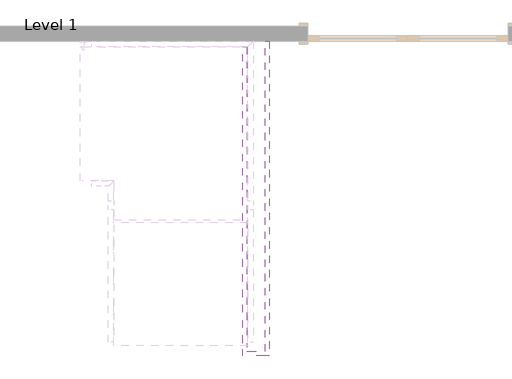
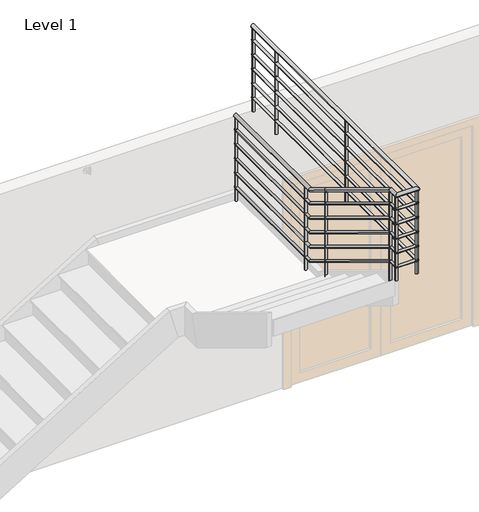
# One storey, part 4 of 5: 1 railing.
"""IFC4 building model written with IfcOpenShell, lengths in millimetres."""

from ifc_helpers import new_model, si_unit, point, frame, frame_2d, origin, place, context, project, spatial, circle_curve, ellipse_curve, trimmed, segment, composite_curve, outline, extrude, element, save
from ifc_brep_helpers import plane_surface, cylinder_surface, advanced_brep

model = new_model("IFC4")

# Units and contexts
model_context = context("Model", 3, world=origin())
ifc_project = project(units=[si_unit("LENGTHUNIT", "METRE", prefix="MILLI")], contexts=[model_context])

# Site, building, storey
site = spatial("IfcSite", under=ifc_project)
building = spatial("IfcBuilding", under=site)
storey = spatial("IfcBuildingStorey", under=building, Name="Level 1", Elevation=0.0)

# Railing
placement = place(None, origin())
element("IfcRailing", 1, ObjectType="Handrail - Pipe", at=placement, inside=storey, context=model_context, shape_type="SolidModel", body=[
    advanced_brep(
    [(-631.467382, 6488.9483604, 3096.6833333), (-593.367382, 6488.9483604, 3096.6833333), (-631.467382, 5188.2262069, 3096.6833333), (-593.367382, 5188.2262069, 3096.6833333), (-593.367382, 4904.2747128, 3268.775148), (-631.467382, 4904.2747128, 3268.775148), (-631.467382, 3791.2262069, 3943.35), (-593.367382, 3791.2262069, 3943.35), (-631.467382, 3675.8983604, 3943.35), (-593.367382, 3713.9983604, 3943.35), (-390.167382, 3675.8983604, 3943.35), (-428.267382, 3713.9983604, 3943.35), (-390.167382, 6539.7483604, 3943.35), (-428.267382, 6539.7483604, 3943.35)],
    [
        (0, 1, circle_curve(frame((-612.417382, 6488.9483604, 3096.6833333), z_axis=(0.0, 1.0, 0.0), x_axis=(1.0, 0.0, 0.0)), 19.05)),
        (1, 0, circle_curve(frame((-612.417382, 6488.9483604, 3096.6833333), z_axis=(0.0, 1.0, 0.0), x_axis=(1.0, 0.0, 0.0)), 19.05)),
        (0, 2),
        (2, 3, ellipse_curve(frame((-612.417382, 5188.2262069, 3096.6833333), z_axis=(0.0, 0.9631193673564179, -0.26907449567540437), x_axis=(0.0, 0.26907449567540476, 0.963119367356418)), 19.7794797, 19.05)),
        (3, 1),
        (3, 2, ellipse_curve(frame((-612.417382, 5188.2262069, 3096.6833333), z_axis=(0.0, 0.9631193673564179, -0.26907449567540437), x_axis=(0.0, 0.26907449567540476, 0.963119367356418)), 19.7794797, 19.05)),
        (4, 5, circle_curve(frame((-612.417382, 4904.2747128, 3268.775148), z_axis=(0.0, -0.8551978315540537, 0.5183017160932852), x_axis=(1.0, 0.0, 0.0)), 19.05)),
        (5, 6),
        (6, 7, ellipse_curve(frame((-612.417382, 3791.2262069, 3943.35), z_axis=(0.0, 0.9631193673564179, -0.26907449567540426), x_axis=(0.0, -0.269074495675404, -0.9631193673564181)), 19.7794797, 19.05)),
        (7, 4),
        (5, 4, circle_curve(frame((-612.417382, 4904.2747128, 3268.775148), z_axis=(0.0, -0.8551978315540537, 0.5183017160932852), x_axis=(1.0, 0.0, 0.0)), 19.05)),
        (7, 6, ellipse_curve(frame((-612.417382, 3791.2262069, 3943.35), z_axis=(0.0, 0.9631193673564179, -0.26907449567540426), x_axis=(0.0, -0.269074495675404, -0.9631193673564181)), 19.7794797, 19.05)),
        (2, 5),
        (4, 3),
        (6, 8),
        (8, 9, ellipse_curve(frame((-612.417382, 3694.9483604, 3943.35), z_axis=(-0.7071067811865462, 0.7071067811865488, 0.0), x_axis=(0.7071067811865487, 0.7071067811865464, 0.0)), 26.9407684, 19.05)),
        (9, 7),
        (9, 8, ellipse_curve(frame((-612.417382, 3694.9483604, 3943.35), z_axis=(-0.7071067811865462, 0.7071067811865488, 0.0), x_axis=(0.7071067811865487, 0.7071067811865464, 0.0)), 26.9407684, 19.05)),
        (8, 10),
        (10, 11, ellipse_curve(frame((-409.217382, 3694.9483604, 3943.35), z_axis=(-0.7071067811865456, -0.7071067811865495, 0.0), x_axis=(-0.7071067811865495, 0.7071067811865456, 0.0)), 26.9407684, 19.05)),
        (11, 9),
        (11, 10, ellipse_curve(frame((-409.217382, 3694.9483604, 3943.35), z_axis=(-0.7071067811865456, -0.7071067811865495, 0.0), x_axis=(-0.7071067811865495, 0.7071067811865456, 0.0)), 26.9407684, 19.05)),
        (12, 13, circle_curve(frame((-409.217382, 6539.7483604, 3943.35), z_axis=(0.0, 1.0, 0.0), x_axis=(-1.0, 0.0, 0.0)), 19.05)),
        (13, 12, circle_curve(frame((-409.217382, 6539.7483604, 3943.35), z_axis=(0.0, 1.0, 0.0), x_axis=(-1.0, 0.0, 0.0)), 19.05)),
        (10, 12),
        (13, 11),
    ],
    [
        plane_surface(frame((-612.417382, 6488.9483604, 3115.7333333), z_axis=(0.0, 1.0, 0.0), x_axis=(0.0, 0.0, -1.0))),
        cylinder_surface(frame((-612.417382, 6488.9483604, 3096.6833333), z_axis=(0.0, 1.0, 0.0), x_axis=(1.0, 0.0, 0.0)), 19.05),
        cylinder_surface(frame((-612.417382, 4904.2747128, 3268.775148), z_axis=(0.0, 0.8551978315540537, -0.5183017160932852), x_axis=(1.0, 0.0, 0.0)), 19.05),
        cylinder_surface(frame((-612.417382, 5183.6747128, 3099.4418146), z_axis=(0.0, 0.8551978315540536, -0.5183017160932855), x_axis=(1.0, 0.0, 0.0)), 19.05),
        cylinder_surface(frame((-612.417382, 3796.5483604, 3943.35), z_axis=(0.0, 1.0, 0.0), x_axis=(1.0, 0.0, 0.0)), 19.05),
        cylinder_surface(frame((-612.417382, 3694.9483604, 3943.35), z_axis=(-1.0, 0.0, 0.0), x_axis=(0.0, 1.0, 0.0)), 19.05),
        plane_surface(frame((-409.217382, 6539.7483604, 3962.4), z_axis=(0.0, 1.0, 0.0), x_axis=(0.0, 0.0, 1.0))),
        cylinder_surface(frame((-409.217382, 3694.9483604, 3943.35), z_axis=(0.0, -1.0, 0.0), x_axis=(-1.0, 0.0, 0.0)), 19.05),
    ],
    [
        (0, [[1, 2]]),
        (1, [[-1, 3, 4, 5]]),
        (1, [[-2, -5, 6, -3]]),
        (2, [[7, 8, 9, 10]]),
        (2, [[11, -10, 12, -8]]),
        (3, [[-4, 13, -7, 14]]),
        (3, [[-6, -14, -11, -13]]),
        (4, [[-9, 15, 16, 17]]),
        (4, [[-12, -17, 18, -15]]),
        (5, [[-16, 19, 20, 21]]),
        (5, [[-18, -21, 22, -19]]),
        (6, [[23, 24]]),
        (7, [[-20, 25, -24, 26]]),
        (7, [[-22, -26, -23, -25]]),
    ],
),
    advanced_brep(
    [(-625.117382, 6488.9483604, 2950.6333333), (-599.717382, 6488.9483604, 2950.6333333), (-625.117382, 5190.0002581, 2950.6333333), (-599.717382, 5190.0002581, 2950.6333333), (-625.117382, 4914.1483604, 3117.8163016), (-599.717382, 4914.1483604, 3117.8163016)],
    [
        (0, 1, circle_curve(frame((-612.417382, 6488.9483604, 2950.6333333), z_axis=(0.0, 1.0, 0.0), x_axis=(1.0, 0.0, 0.0)), 12.7)),
        (1, 0, circle_curve(frame((-612.417382, 6488.9483604, 2950.6333333), z_axis=(0.0, 1.0, 0.0), x_axis=(1.0, 0.0, 0.0)), 12.7)),
        (0, 2),
        (2, 3, ellipse_curve(frame((-612.417382, 5190.0002581, 2950.6333333), z_axis=(0.0, 0.9631193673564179, -0.26907449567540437), x_axis=(0.0, 0.26907449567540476, 0.963119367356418)), 13.1863198, 12.7)),
        (3, 1),
        (3, 2, ellipse_curve(frame((-612.417382, 5190.0002581, 2950.6333333), z_axis=(0.0, 0.9631193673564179, -0.26907449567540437), x_axis=(0.0, 0.26907449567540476, 0.963119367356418)), 13.1863198, 12.7)),
        (4, 5, ellipse_curve(frame((-612.417382, 4914.1483604, 3117.8163016), z_axis=(0.0, -1.0, 0.0), x_axis=(0.0, 0.0, -1.0)), 14.8503651, 12.7)),
        (5, 4, ellipse_curve(frame((-612.417382, 4914.1483604, 3117.8163016), z_axis=(0.0, -1.0, 0.0), x_axis=(0.0, 0.0, -1.0)), 14.8503651, 12.7)),
        (2, 4),
        (5, 3),
    ],
    [
        plane_surface(frame((-612.417382, 6488.9483604, 2963.3333333), z_axis=(0.0, 1.0, 0.0), x_axis=(0.0, 0.0, -1.0))),
        cylinder_surface(frame((-612.417382, 6488.9483604, 2950.6333333), z_axis=(0.0, 1.0, 0.0), x_axis=(1.0, 0.0, 0.0)), 12.7),
        plane_surface(frame((-612.417382, 4914.1483604, 3132.6666667), z_axis=(0.0, -1.0, 0.0), x_axis=(0.0, 0.0, -1.0))),
        cylinder_surface(frame((-612.417382, 5186.9659287, 2952.4723209), z_axis=(0.0, 0.8551978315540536, -0.5183017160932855), x_axis=(1.0, 0.0, 0.0)), 12.7),
    ],
    [
        (0, [[1, 2]]),
        (1, [[-1, 3, 4, 5]]),
        (1, [[-2, -5, 6, -3]]),
        (2, [[7, 8]]),
        (3, [[-4, 9, -8, 10]]),
        (3, [[-6, -10, -7, -9]]),
    ],
),
    advanced_brep(
    [(-625.117382, 4914.1483604, 3117.8163016), (-599.717382, 4914.1483604, 3117.8163016), (-625.117382, 3796.5483604, 3795.1496349), (-599.717382, 3796.5483604, 3795.1496349)],
    [
        (0, 1, ellipse_curve(frame((-612.417382, 4914.1483604, 3117.8163016), z_axis=(0.0, 1.0, 0.0), x_axis=(0.0, 0.0, -1.0)), 14.8503651, 12.7)),
        (1, 0, ellipse_curve(frame((-612.417382, 4914.1483604, 3117.8163016), z_axis=(0.0, 1.0, 0.0), x_axis=(0.0, 0.0, -1.0)), 14.8503651, 12.7)),
        (2, 3, ellipse_curve(frame((-612.417382, 3796.5483604, 3795.1496349), z_axis=(0.0, -1.0, 0.0), x_axis=(0.0, 0.0, -1.0)), 14.8503651, 12.7)),
        (3, 2, ellipse_curve(frame((-612.417382, 3796.5483604, 3795.1496349), z_axis=(0.0, -1.0, 0.0), x_axis=(0.0, 0.0, -1.0)), 14.8503651, 12.7)),
        (0, 2),
        (3, 1),
    ],
    [
        plane_surface(frame((-612.417382, 4914.1483604, 3132.6666667), z_axis=(0.0, 1.0, 0.0), x_axis=(0.0, 0.0, -1.0))),
        plane_surface(frame((-612.417382, 3796.5483604, 3810.0), z_axis=(0.0, -1.0, 0.0), x_axis=(0.0, 0.0, -1.0))),
        cylinder_surface(frame((-612.417382, 4907.5659287, 3121.8056542), z_axis=(0.0, 0.8551978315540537, -0.5183017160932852), x_axis=(1.0, 0.0, 0.0)), 12.7),
    ],
    [
        (0, [[1, 2]]),
        (1, [[3, 4]]),
        (2, [[-1, 5, -4, 6]]),
        (2, [[-2, -6, -3, -5]]),
    ],
),
    advanced_brep(
    [(-625.117382, 6488.9483604, 2798.2333333), (-599.717382, 6488.9483604, 2798.2333333), (-625.117382, 5190.0002581, 2798.2333333), (-599.717382, 5190.0002581, 2798.2333333), (-625.117382, 4914.1483604, 2965.4163016), (-599.717382, 4914.1483604, 2965.4163016)],
    [
        (0, 1, circle_curve(frame((-612.417382, 6488.9483604, 2798.2333333), z_axis=(0.0, 1.0, 0.0), x_axis=(1.0, 0.0, 0.0)), 12.7)),
        (1, 0, circle_curve(frame((-612.417382, 6488.9483604, 2798.2333333), z_axis=(0.0, 1.0, 0.0), x_axis=(1.0, 0.0, 0.0)), 12.7)),
        (0, 2),
        (2, 3, ellipse_curve(frame((-612.417382, 5190.0002581, 2798.2333333), z_axis=(0.0, 0.9631193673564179, -0.26907449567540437), x_axis=(0.0, 0.26907449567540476, 0.963119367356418)), 13.1863198, 12.7)),
        (3, 1),
        (3, 2, ellipse_curve(frame((-612.417382, 5190.0002581, 2798.2333333), z_axis=(0.0, 0.9631193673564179, -0.26907449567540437), x_axis=(0.0, 0.26907449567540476, 0.963119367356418)), 13.1863198, 12.7)),
        (4, 5, ellipse_curve(frame((-612.417382, 4914.1483604, 2965.4163016), z_axis=(0.0, -1.0, 0.0), x_axis=(0.0, 0.0, -1.0)), 14.8503651, 12.7)),
        (5, 4, ellipse_curve(frame((-612.417382, 4914.1483604, 2965.4163016), z_axis=(0.0, -1.0, 0.0), x_axis=(0.0, 0.0, -1.0)), 14.8503651, 12.7)),
        (2, 4),
        (5, 3),
    ],
    [
        plane_surface(frame((-612.417382, 6488.9483604, 2810.9333333), z_axis=(0.0, 1.0, 0.0), x_axis=(0.0, 0.0, -1.0))),
        cylinder_surface(frame((-612.417382, 6488.9483604, 2798.2333333), z_axis=(0.0, 1.0, 0.0), x_axis=(1.0, 0.0, 0.0)), 12.7),
        plane_surface(frame((-612.417382, 4914.1483604, 2980.2666667), z_axis=(0.0, -1.0, 0.0), x_axis=(0.0, 0.0, -1.0))),
        cylinder_surface(frame((-612.417382, 5186.9659287, 2800.0723209), z_axis=(0.0, 0.8551978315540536, -0.5183017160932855), x_axis=(1.0, 0.0, 0.0)), 12.7),
    ],
    [
        (0, [[1, 2]]),
        (1, [[-1, 3, 4, 5]]),
        (1, [[-2, -5, 6, -3]]),
        (2, [[7, 8]]),
        (3, [[-4, 9, -8, 10]]),
        (3, [[-6, -10, -7, -9]]),
    ],
),
    advanced_brep(
    [(-625.117382, 4914.1483604, 2965.4163016), (-599.717382, 4914.1483604, 2965.4163016), (-625.117382, 3796.5483604, 3642.7496349), (-599.717382, 3796.5483604, 3642.7496349)],
    [
        (0, 1, ellipse_curve(frame((-612.417382, 4914.1483604, 2965.4163016), z_axis=(0.0, 1.0, 0.0), x_axis=(0.0, 0.0, -1.0)), 14.8503651, 12.7)),
        (1, 0, ellipse_curve(frame((-612.417382, 4914.1483604, 2965.4163016), z_axis=(0.0, 1.0, 0.0), x_axis=(0.0, 0.0, -1.0)), 14.8503651, 12.7)),
        (2, 3, ellipse_curve(frame((-612.417382, 3796.5483604, 3642.7496349), z_axis=(0.0, -1.0, 0.0), x_axis=(0.0, 0.0, -1.0)), 14.8503651, 12.7)),
        (3, 2, ellipse_curve(frame((-612.417382, 3796.5483604, 3642.7496349), z_axis=(0.0, -1.0, 0.0), x_axis=(0.0, 0.0, -1.0)), 14.8503651, 12.7)),
        (0, 2),
        (3, 1),
    ],
    [
        plane_surface(frame((-612.417382, 4914.1483604, 2980.2666667), z_axis=(0.0, 1.0, 0.0), x_axis=(0.0, 0.0, -1.0))),
        plane_surface(frame((-612.417382, 3796.5483604, 3657.6), z_axis=(0.0, -1.0, 0.0), x_axis=(0.0, 0.0, -1.0))),
        cylinder_surface(frame((-612.417382, 4907.5659287, 2969.4056542), z_axis=(0.0, 0.8551978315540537, -0.5183017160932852), x_axis=(1.0, 0.0, 0.0)), 12.7),
    ],
    [
        (0, [[1, 2]]),
        (1, [[3, 4]]),
        (2, [[-1, 5, -4, 6]]),
        (2, [[-2, -6, -3, -5]]),
    ],
),
    advanced_brep(
    [(-625.117382, 6488.9483604, 2645.8333333), (-599.717382, 6488.9483604, 2645.8333333), (-625.117382, 5190.0002581, 2645.8333333), (-599.717382, 5190.0002581, 2645.8333333), (-625.117382, 4914.1483604, 2813.0163016), (-599.717382, 4914.1483604, 2813.0163016)],
    [
        (0, 1, circle_curve(frame((-612.417382, 6488.9483604, 2645.8333333), z_axis=(0.0, 1.0, 0.0), x_axis=(1.0, 0.0, 0.0)), 12.7)),
        (1, 0, circle_curve(frame((-612.417382, 6488.9483604, 2645.8333333), z_axis=(0.0, 1.0, 0.0), x_axis=(1.0, 0.0, 0.0)), 12.7)),
        (0, 2),
        (2, 3, ellipse_curve(frame((-612.417382, 5190.0002581, 2645.8333333), z_axis=(0.0, 0.9631193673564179, -0.26907449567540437), x_axis=(0.0, 0.26907449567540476, 0.963119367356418)), 13.1863198, 12.7)),
        (3, 1),
        (3, 2, ellipse_curve(frame((-612.417382, 5190.0002581, 2645.8333333), z_axis=(0.0, 0.9631193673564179, -0.26907449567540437), x_axis=(0.0, 0.26907449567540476, 0.963119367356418)), 13.1863198, 12.7)),
        (4, 5, ellipse_curve(frame((-612.417382, 4914.1483604, 2813.0163016), z_axis=(0.0, -1.0, 0.0), x_axis=(0.0, 0.0, -1.0)), 14.8503651, 12.7)),
        (5, 4, ellipse_curve(frame((-612.417382, 4914.1483604, 2813.0163016), z_axis=(0.0, -1.0, 0.0), x_axis=(0.0, 0.0, -1.0)), 14.8503651, 12.7)),
        (2, 4),
        (5, 3),
    ],
    [
        plane_surface(frame((-612.417382, 6488.9483604, 2658.5333333), z_axis=(0.0, 1.0, 0.0), x_axis=(0.0, 0.0, -1.0))),
        cylinder_surface(frame((-612.417382, 6488.9483604, 2645.8333333), z_axis=(0.0, 1.0, 0.0), x_axis=(1.0, 0.0, 0.0)), 12.7),
        plane_surface(frame((-612.417382, 4914.1483604, 2827.8666667), z_axis=(0.0, -1.0, 0.0), x_axis=(0.0, 0.0, -1.0))),
        cylinder_surface(frame((-612.417382, 5186.9659287, 2647.6723209), z_axis=(0.0, 0.8551978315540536, -0.5183017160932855), x_axis=(1.0, 0.0, 0.0)), 12.7),
    ],
    [
        (0, [[1, 2]]),
        (1, [[-1, 3, 4, 5]]),
        (1, [[-2, -5, 6, -3]]),
        (2, [[7, 8]]),
        (3, [[-4, 9, -8, 10]]),
        (3, [[-6, -10, -7, -9]]),
    ],
),
    advanced_brep(
    [(-625.117382, 4914.1483604, 2813.0163016), (-599.717382, 4914.1483604, 2813.0163016), (-625.117382, 3796.5483604, 3490.3496349), (-599.717382, 3796.5483604, 3490.3496349)],
    [
        (0, 1, ellipse_curve(frame((-612.417382, 4914.1483604, 2813.0163016), z_axis=(0.0, 1.0, 0.0), x_axis=(0.0, 0.0, -1.0)), 14.8503651, 12.7)),
        (1, 0, ellipse_curve(frame((-612.417382, 4914.1483604, 2813.0163016), z_axis=(0.0, 1.0, 0.0), x_axis=(0.0, 0.0, -1.0)), 14.8503651, 12.7)),
        (2, 3, ellipse_curve(frame((-612.417382, 3796.5483604, 3490.3496349), z_axis=(0.0, -1.0, 0.0), x_axis=(0.0, 0.0, -1.0)), 14.8503651, 12.7)),
        (3, 2, ellipse_curve(frame((-612.417382, 3796.5483604, 3490.3496349), z_axis=(0.0, -1.0, 0.0), x_axis=(0.0, 0.0, -1.0)), 14.8503651, 12.7)),
        (0, 2),
        (3, 1),
    ],
    [
        plane_surface(frame((-612.417382, 4914.1483604, 2827.8666667), z_axis=(0.0, 1.0, 0.0), x_axis=(0.0, 0.0, -1.0))),
        plane_surface(frame((-612.417382, 3796.5483604, 3505.2), z_axis=(0.0, -1.0, 0.0), x_axis=(0.0, 0.0, -1.0))),
        cylinder_surface(frame((-612.417382, 4907.5659287, 2817.0056542), z_axis=(0.0, 0.8551978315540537, -0.5183017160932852), x_axis=(1.0, 0.0, 0.0)), 12.7),
    ],
    [
        (0, [[1, 2]]),
        (1, [[3, 4]]),
        (2, [[-1, 5, -4, 6]]),
        (2, [[-2, -6, -3, -5]]),
    ],
),
    advanced_brep(
    [(-625.117382, 6488.9483604, 2493.4333333), (-599.717382, 6488.9483604, 2493.4333333), (-625.117382, 5190.0002581, 2493.4333333), (-599.717382, 5190.0002581, 2493.4333333), (-625.117382, 4914.1483604, 2660.6163016), (-599.717382, 4914.1483604, 2660.6163016)],
    [
        (0, 1, circle_curve(frame((-612.417382, 6488.9483604, 2493.4333333), z_axis=(0.0, 1.0, 0.0), x_axis=(1.0, 0.0, 0.0)), 12.7)),
        (1, 0, circle_curve(frame((-612.417382, 6488.9483604, 2493.4333333), z_axis=(0.0, 1.0, 0.0), x_axis=(1.0, 0.0, 0.0)), 12.7)),
        (0, 2),
        (2, 3, ellipse_curve(frame((-612.417382, 5190.0002581, 2493.4333333), z_axis=(0.0, 0.9631193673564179, -0.26907449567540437), x_axis=(0.0, 0.26907449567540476, 0.963119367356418)), 13.1863198, 12.7)),
        (3, 1),
        (3, 2, ellipse_curve(frame((-612.417382, 5190.0002581, 2493.4333333), z_axis=(0.0, 0.9631193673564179, -0.26907449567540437), x_axis=(0.0, 0.26907449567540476, 0.963119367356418)), 13.1863198, 12.7)),
        (4, 5, ellipse_curve(frame((-612.417382, 4914.1483604, 2660.6163016), z_axis=(0.0, -1.0, 0.0), x_axis=(0.0, 0.0, -1.0)), 14.8503651, 12.7)),
        (5, 4, ellipse_curve(frame((-612.417382, 4914.1483604, 2660.6163016), z_axis=(0.0, -1.0, 0.0), x_axis=(0.0, 0.0, -1.0)), 14.8503651, 12.7)),
        (2, 4),
        (5, 3),
    ],
    [
        plane_surface(frame((-612.417382, 6488.9483604, 2506.1333333), z_axis=(0.0, 1.0, 0.0), x_axis=(0.0, 0.0, -1.0))),
        cylinder_surface(frame((-612.417382, 6488.9483604, 2493.4333333), z_axis=(0.0, 1.0, 0.0), x_axis=(1.0, 0.0, 0.0)), 12.7),
        plane_surface(frame((-612.417382, 4914.1483604, 2675.4666667), z_axis=(0.0, -1.0, 0.0), x_axis=(0.0, 0.0, -1.0))),
        cylinder_surface(frame((-612.417382, 5186.9659287, 2495.2723209), z_axis=(0.0, 0.8551978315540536, -0.5183017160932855), x_axis=(1.0, 0.0, 0.0)), 12.7),
    ],
    [
        (0, [[1, 2]]),
        (1, [[-1, 3, 4, 5]]),
        (1, [[-2, -5, 6, -3]]),
        (2, [[7, 8]]),
        (3, [[-4, 9, -8, 10]]),
        (3, [[-6, -10, -7, -9]]),
    ],
),
    advanced_brep(
    [(-625.117382, 4914.1483604, 2660.6163016), (-599.717382, 4914.1483604, 2660.6163016), (-625.117382, 3796.5483604, 3337.9496349), (-599.717382, 3796.5483604, 3337.9496349)],
    [
        (0, 1, ellipse_curve(frame((-612.417382, 4914.1483604, 2660.6163016), z_axis=(0.0, 1.0, 0.0), x_axis=(0.0, 0.0, -1.0)), 14.8503651, 12.7)),
        (1, 0, ellipse_curve(frame((-612.417382, 4914.1483604, 2660.6163016), z_axis=(0.0, 1.0, 0.0), x_axis=(0.0, 0.0, -1.0)), 14.8503651, 12.7)),
        (2, 3, ellipse_curve(frame((-612.417382, 3796.5483604, 3337.9496349), z_axis=(0.0, -1.0, 0.0), x_axis=(0.0, 0.0, -1.0)), 14.8503651, 12.7)),
        (3, 2, ellipse_curve(frame((-612.417382, 3796.5483604, 3337.9496349), z_axis=(0.0, -1.0, 0.0), x_axis=(0.0, 0.0, -1.0)), 14.8503651, 12.7)),
        (0, 2),
        (3, 1),
    ],
    [
        plane_surface(frame((-612.417382, 4914.1483604, 2675.4666667), z_axis=(0.0, 1.0, 0.0), x_axis=(0.0, 0.0, -1.0))),
        plane_surface(frame((-612.417382, 3796.5483604, 3352.8), z_axis=(0.0, -1.0, 0.0), x_axis=(0.0, 0.0, -1.0))),
        cylinder_surface(frame((-612.417382, 4907.5659287, 2664.6056542), z_axis=(0.0, 0.8551978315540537, -0.5183017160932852), x_axis=(1.0, 0.0, 0.0)), 12.7),
    ],
    [
        (0, [[1, 2]]),
        (1, [[3, 4]]),
        (2, [[-1, 5, -4, 6]]),
        (2, [[-2, -6, -3, -5]]),
    ],
),
    advanced_brep(
    [(-625.117382, 6488.9483604, 2341.0333333), (-599.717382, 6488.9483604, 2341.0333333), (-625.117382, 5190.0002581, 2341.0333333), (-599.717382, 5190.0002581, 2341.0333333), (-625.117382, 4914.1483604, 2508.2163016), (-599.717382, 4914.1483604, 2508.2163016)],
    [
        (0, 1, circle_curve(frame((-612.417382, 6488.9483604, 2341.0333333), z_axis=(0.0, 1.0, 0.0), x_axis=(1.0, 0.0, 0.0)), 12.7)),
        (1, 0, circle_curve(frame((-612.417382, 6488.9483604, 2341.0333333), z_axis=(0.0, 1.0, 0.0), x_axis=(1.0, 0.0, 0.0)), 12.7)),
        (0, 2),
        (2, 3, ellipse_curve(frame((-612.417382, 5190.0002581, 2341.0333333), z_axis=(0.0, 0.9631193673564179, -0.26907449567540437), x_axis=(0.0, 0.26907449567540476, 0.963119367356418)), 13.1863198, 12.7)),
        (3, 1),
        (3, 2, ellipse_curve(frame((-612.417382, 5190.0002581, 2341.0333333), z_axis=(0.0, 0.9631193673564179, -0.26907449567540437), x_axis=(0.0, 0.26907449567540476, 0.963119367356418)), 13.1863198, 12.7)),
        (4, 5, ellipse_curve(frame((-612.417382, 4914.1483604, 2508.2163016), z_axis=(0.0, -1.0, 0.0), x_axis=(0.0, 0.0, -1.0)), 14.8503651, 12.7)),
        (5, 4, ellipse_curve(frame((-612.417382, 4914.1483604, 2508.2163016), z_axis=(0.0, -1.0, 0.0), x_axis=(0.0, 0.0, -1.0)), 14.8503651, 12.7)),
        (2, 4),
        (5, 3),
    ],
    [
        plane_surface(frame((-612.417382, 6488.9483604, 2353.7333333), z_axis=(0.0, 1.0, 0.0), x_axis=(0.0, 0.0, -1.0))),
        cylinder_surface(frame((-612.417382, 6488.9483604, 2341.0333333), z_axis=(0.0, 1.0, 0.0), x_axis=(1.0, 0.0, 0.0)), 12.7),
        plane_surface(frame((-612.417382, 4914.1483604, 2523.0666667), z_axis=(0.0, -1.0, 0.0), x_axis=(0.0, 0.0, -1.0))),
        cylinder_surface(frame((-612.417382, 5186.9659287, 2342.8723209), z_axis=(0.0, 0.8551978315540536, -0.5183017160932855), x_axis=(1.0, 0.0, 0.0)), 12.7),
    ],
    [
        (0, [[1, 2]]),
        (1, [[-1, 3, 4, 5]]),
        (1, [[-2, -5, 6, -3]]),
        (2, [[7, 8]]),
        (3, [[-4, 9, -8, 10]]),
        (3, [[-6, -10, -7, -9]]),
    ],
),
    advanced_brep(
    [(-625.117382, 4914.1483604, 2508.2163016), (-599.717382, 4914.1483604, 2508.2163016), (-625.117382, 3796.5483604, 3185.5496349), (-599.717382, 3796.5483604, 3185.5496349)],
    [
        (0, 1, ellipse_curve(frame((-612.417382, 4914.1483604, 2508.2163016), z_axis=(0.0, 1.0, 0.0), x_axis=(0.0, 0.0, -1.0)), 14.8503651, 12.7)),
        (1, 0, ellipse_curve(frame((-612.417382, 4914.1483604, 2508.2163016), z_axis=(0.0, 1.0, 0.0), x_axis=(0.0, 0.0, -1.0)), 14.8503651, 12.7)),
        (2, 3, ellipse_curve(frame((-612.417382, 3796.5483604, 3185.5496349), z_axis=(0.0, -1.0, 0.0), x_axis=(0.0, 0.0, -1.0)), 14.8503651, 12.7)),
        (3, 2, ellipse_curve(frame((-612.417382, 3796.5483604, 3185.5496349), z_axis=(0.0, -1.0, 0.0), x_axis=(0.0, 0.0, -1.0)), 14.8503651, 12.7)),
        (0, 2),
        (3, 1),
    ],
    [
        plane_surface(frame((-612.417382, 4914.1483604, 2523.0666667), z_axis=(0.0, 1.0, 0.0), x_axis=(0.0, 0.0, -1.0))),
        plane_surface(frame((-612.417382, 3796.5483604, 3200.4), z_axis=(0.0, -1.0, 0.0), x_axis=(0.0, 0.0, -1.0))),
        cylinder_surface(frame((-612.417382, 4907.5659287, 2512.2056542), z_axis=(0.0, 0.8551978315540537, -0.5183017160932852), x_axis=(1.0, 0.0, 0.0)), 12.7),
    ],
    [
        (0, [[1, 2]]),
        (1, [[3, 4]]),
        (2, [[-1, 5, -4, 6]]),
        (2, [[-2, -6, -3, -5]]),
    ],
),
    advanced_brep(
    [(-625.117382, 3796.5483604, 3797.3), (-599.717382, 3796.5483604, 3797.3), (-625.117382, 3707.6483604, 3797.3), (-599.717382, 3707.6483604, 3797.3)],
    [
        (0, 1, circle_curve(frame((-612.417382, 3796.5483604, 3797.3), z_axis=(0.0, 1.0, 0.0), x_axis=(1.0, 0.0, 0.0)), 12.7)),
        (1, 0, circle_curve(frame((-612.417382, 3796.5483604, 3797.3), z_axis=(0.0, 1.0, 0.0), x_axis=(1.0, 0.0, 0.0)), 12.7)),
        (2, 3, circle_curve(frame((-612.417382, 3707.6483604, 3797.3), z_axis=(0.0, -1.0, 0.0), x_axis=(1.0, 0.0, 0.0)), 12.7)),
        (3, 2, circle_curve(frame((-612.417382, 3707.6483604, 3797.3), z_axis=(0.0, -1.0, 0.0), x_axis=(1.0, 0.0, 0.0)), 12.7)),
        (0, 2),
        (3, 1),
    ],
    [
        plane_surface(frame((-612.417382, 3796.5483604, 3810.0), z_axis=(0.0, 1.0, 0.0), x_axis=(0.0, 0.0, -1.0))),
        plane_surface(frame((-612.417382, 3707.6483604, 3810.0), z_axis=(0.0, -1.0, 0.0), x_axis=(0.0, 0.0, -1.0))),
        cylinder_surface(frame((-612.417382, 3796.5483604, 3797.3), z_axis=(0.0, 1.0, 0.0), x_axis=(1.0, 0.0, 0.0)), 12.7),
    ],
    [
        (0, [[1, 2]]),
        (1, [[3, 4]]),
        (2, [[-1, 5, -4, 6]]),
        (2, [[-2, -6, -3, -5]]),
    ],
),
    advanced_brep(
    [(-625.117382, 3682.2483604, 3797.3), (-625.117382, 3707.6483604, 3797.3), (-421.917382, 3682.2483604, 3797.3), (-421.917382, 3707.6483604, 3797.3)],
    [
        (0, 1, circle_curve(frame((-625.117382, 3694.9483604, 3797.3), z_axis=(-1.0, 0.0, 0.0), x_axis=(0.0, 1.0, 0.0)), 12.7)),
        (1, 0, circle_curve(frame((-625.117382, 3694.9483604, 3797.3), z_axis=(-1.0, 0.0, 0.0), x_axis=(0.0, 1.0, 0.0)), 12.7)),
        (2, 3, circle_curve(frame((-421.917382, 3694.9483604, 3797.3), z_axis=(1.0, 0.0, 0.0), x_axis=(0.0, 1.0, 0.0)), 12.7)),
        (3, 2, circle_curve(frame((-421.917382, 3694.9483604, 3797.3), z_axis=(1.0, 0.0, 0.0), x_axis=(0.0, 1.0, 0.0)), 12.7)),
        (0, 2),
        (3, 1),
    ],
    [
        plane_surface(frame((-625.117382, 3694.9483604, 3810.0), z_axis=(-1.0, 0.0, 0.0), x_axis=(0.0, 1.0, 0.0))),
        plane_surface(frame((-421.917382, 3694.9483604, 3810.0), z_axis=(1.0, 0.0, 0.0), x_axis=(0.0, 1.0, 0.0))),
        cylinder_surface(frame((-625.117382, 3694.9483604, 3797.3), z_axis=(-1.0, 0.0, 0.0), x_axis=(0.0, 1.0, 0.0)), 12.7),
    ],
    [
        (0, [[1, 2]]),
        (1, [[3, 4]]),
        (2, [[-1, 5, -4, 6]]),
        (2, [[-2, -6, -3, -5]]),
    ],
),
    advanced_brep(
    [(-396.517382, 3682.2483604, 3797.3), (-421.917382, 3682.2483604, 3797.3), (-396.517382, 6539.7483604, 3797.3), (-421.917382, 6539.7483604, 3797.3)],
    [
        (0, 1, circle_curve(frame((-409.217382, 3682.2483604, 3797.3), z_axis=(0.0, -1.0, 0.0), x_axis=(-1.0, 0.0, 0.0)), 12.7)),
        (1, 0, circle_curve(frame((-409.217382, 3682.2483604, 3797.3), z_axis=(0.0, -1.0, 0.0), x_axis=(-1.0, 0.0, 0.0)), 12.7)),
        (2, 3, circle_curve(frame((-409.217382, 6539.7483604, 3797.3), z_axis=(0.0, 1.0, 0.0), x_axis=(-1.0, 0.0, 0.0)), 12.7)),
        (3, 2, circle_curve(frame((-409.217382, 6539.7483604, 3797.3), z_axis=(0.0, 1.0, 0.0), x_axis=(-1.0, 0.0, 0.0)), 12.7)),
        (0, 2),
        (3, 1),
    ],
    [
        plane_surface(frame((-409.217382, 3682.2483604, 3810.0), z_axis=(0.0, -1.0, 0.0), x_axis=(0.0, 0.0, 1.0))),
        plane_surface(frame((-409.217382, 6539.7483604, 3810.0), z_axis=(0.0, 1.0, 0.0), x_axis=(0.0, 0.0, 1.0))),
        cylinder_surface(frame((-409.217382, 3682.2483604, 3797.3), z_axis=(0.0, -1.0, 0.0), x_axis=(-1.0, 0.0, 0.0)), 12.7),
    ],
    [
        (0, [[1, 2]]),
        (1, [[3, 4]]),
        (2, [[-1, 5, -4, 6]]),
        (2, [[-2, -6, -3, -5]]),
    ],
),
    advanced_brep(
    [(-625.117382, 3796.5483604, 3644.9), (-599.717382, 3796.5483604, 3644.9), (-625.117382, 3707.6483604, 3644.9), (-599.717382, 3707.6483604, 3644.9)],
    [
        (0, 1, circle_curve(frame((-612.417382, 3796.5483604, 3644.9), z_axis=(0.0, 1.0, 0.0), x_axis=(1.0, 0.0, 0.0)), 12.7)),
        (1, 0, circle_curve(frame((-612.417382, 3796.5483604, 3644.9), z_axis=(0.0, 1.0, 0.0), x_axis=(1.0, 0.0, 0.0)), 12.7)),
        (2, 3, circle_curve(frame((-612.417382, 3707.6483604, 3644.9), z_axis=(0.0, -1.0, 0.0), x_axis=(1.0, 0.0, 0.0)), 12.7)),
        (3, 2, circle_curve(frame((-612.417382, 3707.6483604, 3644.9), z_axis=(0.0, -1.0, 0.0), x_axis=(1.0, 0.0, 0.0)), 12.7)),
        (0, 2),
        (3, 1),
    ],
    [
        plane_surface(frame((-612.417382, 3796.5483604, 3657.6), z_axis=(0.0, 1.0, 0.0), x_axis=(0.0, 0.0, -1.0))),
        plane_surface(frame((-612.417382, 3707.6483604, 3657.6), z_axis=(0.0, -1.0, 0.0), x_axis=(0.0, 0.0, -1.0))),
        cylinder_surface(frame((-612.417382, 3796.5483604, 3644.9), z_axis=(0.0, 1.0, 0.0), x_axis=(1.0, 0.0, 0.0)), 12.7),
    ],
    [
        (0, [[1, 2]]),
        (1, [[3, 4]]),
        (2, [[-1, 5, -4, 6]]),
        (2, [[-2, -6, -3, -5]]),
    ],
),
    advanced_brep(
    [(-625.117382, 3682.2483604, 3644.9), (-625.117382, 3707.6483604, 3644.9), (-421.917382, 3682.2483604, 3644.9), (-421.917382, 3707.6483604, 3644.9)],
    [
        (0, 1, circle_curve(frame((-625.117382, 3694.9483604, 3644.9), z_axis=(-1.0, 0.0, 0.0), x_axis=(0.0, 1.0, 0.0)), 12.7)),
        (1, 0, circle_curve(frame((-625.117382, 3694.9483604, 3644.9), z_axis=(-1.0, 0.0, 0.0), x_axis=(0.0, 1.0, 0.0)), 12.7)),
        (2, 3, circle_curve(frame((-421.917382, 3694.9483604, 3644.9), z_axis=(1.0, 0.0, 0.0), x_axis=(0.0, 1.0, 0.0)), 12.7)),
        (3, 2, circle_curve(frame((-421.917382, 3694.9483604, 3644.9), z_axis=(1.0, 0.0, 0.0), x_axis=(0.0, 1.0, 0.0)), 12.7)),
        (0, 2),
        (3, 1),
    ],
    [
        plane_surface(frame((-625.117382, 3694.9483604, 3657.6), z_axis=(-1.0, 0.0, 0.0), x_axis=(0.0, 1.0, 0.0))),
        plane_surface(frame((-421.917382, 3694.9483604, 3657.6), z_axis=(1.0, 0.0, 0.0), x_axis=(0.0, 1.0, 0.0))),
        cylinder_surface(frame((-625.117382, 3694.9483604, 3644.9), z_axis=(-1.0, 0.0, 0.0), x_axis=(0.0, 1.0, 0.0)), 12.7),
    ],
    [
        (0, [[1, 2]]),
        (1, [[3, 4]]),
        (2, [[-1, 5, -4, 6]]),
        (2, [[-2, -6, -3, -5]]),
    ],
),
    advanced_brep(
    [(-396.517382, 3682.2483604, 3644.9), (-421.917382, 3682.2483604, 3644.9), (-396.517382, 6539.7483604, 3644.9), (-421.917382, 6539.7483604, 3644.9)],
    [
        (0, 1, circle_curve(frame((-409.217382, 3682.2483604, 3644.9), z_axis=(0.0, -1.0, 0.0), x_axis=(-1.0, 0.0, 0.0)), 12.7)),
        (1, 0, circle_curve(frame((-409.217382, 3682.2483604, 3644.9), z_axis=(0.0, -1.0, 0.0), x_axis=(-1.0, 0.0, 0.0)), 12.7)),
        (2, 3, circle_curve(frame((-409.217382, 6539.7483604, 3644.9), z_axis=(0.0, 1.0, 0.0), x_axis=(-1.0, 0.0, 0.0)), 12.7)),
        (3, 2, circle_curve(frame((-409.217382, 6539.7483604, 3644.9), z_axis=(0.0, 1.0, 0.0), x_axis=(-1.0, 0.0, 0.0)), 12.7)),
        (0, 2),
        (3, 1),
    ],
    [
        plane_surface(frame((-409.217382, 3682.2483604, 3657.6), z_axis=(0.0, -1.0, 0.0), x_axis=(0.0, 0.0, 1.0))),
        plane_surface(frame((-409.217382, 6539.7483604, 3657.6), z_axis=(0.0, 1.0, 0.0), x_axis=(0.0, 0.0, 1.0))),
        cylinder_surface(frame((-409.217382, 3682.2483604, 3644.9), z_axis=(0.0, -1.0, 0.0), x_axis=(-1.0, 0.0, 0.0)), 12.7),
    ],
    [
        (0, [[1, 2]]),
        (1, [[3, 4]]),
        (2, [[-1, 5, -4, 6]]),
        (2, [[-2, -6, -3, -5]]),
    ],
),
    advanced_brep(
    [(-625.117382, 3796.5483604, 3492.5), (-599.717382, 3796.5483604, 3492.5), (-625.117382, 3707.6483604, 3492.5), (-599.717382, 3707.6483604, 3492.5)],
    [
        (0, 1, circle_curve(frame((-612.417382, 3796.5483604, 3492.5), z_axis=(0.0, 1.0, 0.0), x_axis=(1.0, 0.0, 0.0)), 12.7)),
        (1, 0, circle_curve(frame((-612.417382, 3796.5483604, 3492.5), z_axis=(0.0, 1.0, 0.0), x_axis=(1.0, 0.0, 0.0)), 12.7)),
        (2, 3, circle_curve(frame((-612.417382, 3707.6483604, 3492.5), z_axis=(0.0, -1.0, 0.0), x_axis=(1.0, 0.0, 0.0)), 12.7)),
        (3, 2, circle_curve(frame((-612.417382, 3707.6483604, 3492.5), z_axis=(0.0, -1.0, 0.0), x_axis=(1.0, 0.0, 0.0)), 12.7)),
        (0, 2),
        (3, 1),
    ],
    [
        plane_surface(frame((-612.417382, 3796.5483604, 3505.2), z_axis=(0.0, 1.0, 0.0), x_axis=(0.0, 0.0, -1.0))),
        plane_surface(frame((-612.417382, 3707.6483604, 3505.2), z_axis=(0.0, -1.0, 0.0), x_axis=(0.0, 0.0, -1.0))),
        cylinder_surface(frame((-612.417382, 3796.5483604, 3492.5), z_axis=(0.0, 1.0, 0.0), x_axis=(1.0, 0.0, 0.0)), 12.7),
    ],
    [
        (0, [[1, 2]]),
        (1, [[3, 4]]),
        (2, [[-1, 5, -4, 6]]),
        (2, [[-2, -6, -3, -5]]),
    ],
),
    advanced_brep(
    [(-625.117382, 3682.2483604, 3492.5), (-625.117382, 3707.6483604, 3492.5), (-421.917382, 3682.2483604, 3492.5), (-421.917382, 3707.6483604, 3492.5)],
    [
        (0, 1, circle_curve(frame((-625.117382, 3694.9483604, 3492.5), z_axis=(-1.0, 0.0, 0.0), x_axis=(0.0, 1.0, 0.0)), 12.7)),
        (1, 0, circle_curve(frame((-625.117382, 3694.9483604, 3492.5), z_axis=(-1.0, 0.0, 0.0), x_axis=(0.0, 1.0, 0.0)), 12.7)),
        (2, 3, circle_curve(frame((-421.917382, 3694.9483604, 3492.5), z_axis=(1.0, 0.0, 0.0), x_axis=(0.0, 1.0, 0.0)), 12.7)),
        (3, 2, circle_curve(frame((-421.917382, 3694.9483604, 3492.5), z_axis=(1.0, 0.0, 0.0), x_axis=(0.0, 1.0, 0.0)), 12.7)),
        (0, 2),
        (3, 1),
    ],
    [
        plane_surface(frame((-625.117382, 3694.9483604, 3505.2), z_axis=(-1.0, 0.0, 0.0), x_axis=(0.0, 1.0, 0.0))),
        plane_surface(frame((-421.917382, 3694.9483604, 3505.2), z_axis=(1.0, 0.0, 0.0), x_axis=(0.0, 1.0, 0.0))),
        cylinder_surface(frame((-625.117382, 3694.9483604, 3492.5), z_axis=(-1.0, 0.0, 0.0), x_axis=(0.0, 1.0, 0.0)), 12.7),
    ],
    [
        (0, [[1, 2]]),
        (1, [[3, 4]]),
        (2, [[-1, 5, -4, 6]]),
        (2, [[-2, -6, -3, -5]]),
    ],
),
    advanced_brep(
    [(-396.517382, 3682.2483604, 3492.5), (-421.917382, 3682.2483604, 3492.5), (-396.517382, 6539.7483604, 3492.5), (-421.917382, 6539.7483604, 3492.5)],
    [
        (0, 1, circle_curve(frame((-409.217382, 3682.2483604, 3492.5), z_axis=(0.0, -1.0, 0.0), x_axis=(-1.0, 0.0, 0.0)), 12.7)),
        (1, 0, circle_curve(frame((-409.217382, 3682.2483604, 3492.5), z_axis=(0.0, -1.0, 0.0), x_axis=(-1.0, 0.0, 0.0)), 12.7)),
        (2, 3, circle_curve(frame((-409.217382, 6539.7483604, 3492.5), z_axis=(0.0, 1.0, 0.0), x_axis=(-1.0, 0.0, 0.0)), 12.7)),
        (3, 2, circle_curve(frame((-409.217382, 6539.7483604, 3492.5), z_axis=(0.0, 1.0, 0.0), x_axis=(-1.0, 0.0, 0.0)), 12.7)),
        (0, 2),
        (3, 1),
    ],
    [
        plane_surface(frame((-409.217382, 3682.2483604, 3505.2), z_axis=(0.0, -1.0, 0.0), x_axis=(0.0, 0.0, 1.0))),
        plane_surface(frame((-409.217382, 6539.7483604, 3505.2), z_axis=(0.0, 1.0, 0.0), x_axis=(0.0, 0.0, 1.0))),
        cylinder_surface(frame((-409.217382, 3682.2483604, 3492.5), z_axis=(0.0, -1.0, 0.0), x_axis=(-1.0, 0.0, 0.0)), 12.7),
    ],
    [
        (0, [[1, 2]]),
        (1, [[3, 4]]),
        (2, [[-1, 5, -4, 6]]),
        (2, [[-2, -6, -3, -5]]),
    ],
),
    advanced_brep(
    [(-625.117382, 3796.5483604, 3340.1), (-599.717382, 3796.5483604, 3340.1), (-625.117382, 3707.6483604, 3340.1), (-599.717382, 3707.6483604, 3340.1)],
    [
        (0, 1, circle_curve(frame((-612.417382, 3796.5483604, 3340.1), z_axis=(0.0, 1.0, 0.0), x_axis=(1.0, 0.0, 0.0)), 12.7)),
        (1, 0, circle_curve(frame((-612.417382, 3796.5483604, 3340.1), z_axis=(0.0, 1.0, 0.0), x_axis=(1.0, 0.0, 0.0)), 12.7)),
        (2, 3, circle_curve(frame((-612.417382, 3707.6483604, 3340.1), z_axis=(0.0, -1.0, 0.0), x_axis=(1.0, 0.0, 0.0)), 12.7)),
        (3, 2, circle_curve(frame((-612.417382, 3707.6483604, 3340.1), z_axis=(0.0, -1.0, 0.0), x_axis=(1.0, 0.0, 0.0)), 12.7)),
        (0, 2),
        (3, 1),
    ],
    [
        plane_surface(frame((-612.417382, 3796.5483604, 3352.8), z_axis=(0.0, 1.0, 0.0), x_axis=(0.0, 0.0, -1.0))),
        plane_surface(frame((-612.417382, 3707.6483604, 3352.8), z_axis=(0.0, -1.0, 0.0), x_axis=(0.0, 0.0, -1.0))),
        cylinder_surface(frame((-612.417382, 3796.5483604, 3340.1), z_axis=(0.0, 1.0, 0.0), x_axis=(1.0, 0.0, 0.0)), 12.7),
    ],
    [
        (0, [[1, 2]]),
        (1, [[3, 4]]),
        (2, [[-1, 5, -4, 6]]),
        (2, [[-2, -6, -3, -5]]),
    ],
),
    advanced_brep(
    [(-625.117382, 3682.2483604, 3340.1), (-625.117382, 3707.6483604, 3340.1), (-421.917382, 3682.2483604, 3340.1), (-421.917382, 3707.6483604, 3340.1)],
    [
        (0, 1, circle_curve(frame((-625.117382, 3694.9483604, 3340.1), z_axis=(-1.0, 0.0, 0.0), x_axis=(0.0, 1.0, 0.0)), 12.7)),
        (1, 0, circle_curve(frame((-625.117382, 3694.9483604, 3340.1), z_axis=(-1.0, 0.0, 0.0), x_axis=(0.0, 1.0, 0.0)), 12.7)),
        (2, 3, circle_curve(frame((-421.917382, 3694.9483604, 3340.1), z_axis=(1.0, 0.0, 0.0), x_axis=(0.0, 1.0, 0.0)), 12.7)),
        (3, 2, circle_curve(frame((-421.917382, 3694.9483604, 3340.1), z_axis=(1.0, 0.0, 0.0), x_axis=(0.0, 1.0, 0.0)), 12.7)),
        (0, 2),
        (3, 1),
    ],
    [
        plane_surface(frame((-625.117382, 3694.9483604, 3352.8), z_axis=(-1.0, 0.0, 0.0), x_axis=(0.0, 1.0, 0.0))),
        plane_surface(frame((-421.917382, 3694.9483604, 3352.8), z_axis=(1.0, 0.0, 0.0), x_axis=(0.0, 1.0, 0.0))),
        cylinder_surface(frame((-625.117382, 3694.9483604, 3340.1), z_axis=(-1.0, 0.0, 0.0), x_axis=(0.0, 1.0, 0.0)), 12.7),
    ],
    [
        (0, [[1, 2]]),
        (1, [[3, 4]]),
        (2, [[-1, 5, -4, 6]]),
        (2, [[-2, -6, -3, -5]]),
    ],
),
    advanced_brep(
    [(-396.517382, 3682.2483604, 3340.1), (-421.917382, 3682.2483604, 3340.1), (-396.517382, 6539.7483604, 3340.1), (-421.917382, 6539.7483604, 3340.1)],
    [
        (0, 1, circle_curve(frame((-409.217382, 3682.2483604, 3340.1), z_axis=(0.0, -1.0, 0.0), x_axis=(-1.0, 0.0, 0.0)), 12.7)),
        (1, 0, circle_curve(frame((-409.217382, 3682.2483604, 3340.1), z_axis=(0.0, -1.0, 0.0), x_axis=(-1.0, 0.0, 0.0)), 12.7)),
        (2, 3, circle_curve(frame((-409.217382, 6539.7483604, 3340.1), z_axis=(0.0, 1.0, 0.0), x_axis=(-1.0, 0.0, 0.0)), 12.7)),
        (3, 2, circle_curve(frame((-409.217382, 6539.7483604, 3340.1), z_axis=(0.0, 1.0, 0.0), x_axis=(-1.0, 0.0, 0.0)), 12.7)),
        (0, 2),
        (3, 1),
    ],
    [
        plane_surface(frame((-409.217382, 3682.2483604, 3352.8), z_axis=(0.0, -1.0, 0.0), x_axis=(0.0, 0.0, 1.0))),
        plane_surface(frame((-409.217382, 6539.7483604, 3352.8), z_axis=(0.0, 1.0, 0.0), x_axis=(0.0, 0.0, 1.0))),
        cylinder_surface(frame((-409.217382, 3682.2483604, 3340.1), z_axis=(0.0, -1.0, 0.0), x_axis=(-1.0, 0.0, 0.0)), 12.7),
    ],
    [
        (0, [[1, 2]]),
        (1, [[3, 4]]),
        (2, [[-1, 5, -4, 6]]),
        (2, [[-2, -6, -3, -5]]),
    ],
),
    advanced_brep(
    [(-625.117382, 3796.5483604, 3187.7), (-599.717382, 3796.5483604, 3187.7), (-625.117382, 3707.6483604, 3187.7), (-599.717382, 3707.6483604, 3187.7)],
    [
        (0, 1, circle_curve(frame((-612.417382, 3796.5483604, 3187.7), z_axis=(0.0, 1.0, 0.0), x_axis=(1.0, 0.0, 0.0)), 12.7)),
        (1, 0, circle_curve(frame((-612.417382, 3796.5483604, 3187.7), z_axis=(0.0, 1.0, 0.0), x_axis=(1.0, 0.0, 0.0)), 12.7)),
        (2, 3, circle_curve(frame((-612.417382, 3707.6483604, 3187.7), z_axis=(0.0, -1.0, 0.0), x_axis=(1.0, 0.0, 0.0)), 12.7)),
        (3, 2, circle_curve(frame((-612.417382, 3707.6483604, 3187.7), z_axis=(0.0, -1.0, 0.0), x_axis=(1.0, 0.0, 0.0)), 12.7)),
        (0, 2),
        (3, 1),
    ],
    [
        plane_surface(frame((-612.417382, 3796.5483604, 3200.4), z_axis=(0.0, 1.0, 0.0), x_axis=(0.0, 0.0, -1.0))),
        plane_surface(frame((-612.417382, 3707.6483604, 3200.4), z_axis=(0.0, -1.0, 0.0), x_axis=(0.0, 0.0, -1.0))),
        cylinder_surface(frame((-612.417382, 3796.5483604, 3187.7), z_axis=(0.0, 1.0, 0.0), x_axis=(1.0, 0.0, 0.0)), 12.7),
    ],
    [
        (0, [[1, 2]]),
        (1, [[3, 4]]),
        (2, [[-1, 5, -4, 6]]),
        (2, [[-2, -6, -3, -5]]),
    ],
),
    advanced_brep(
    [(-625.117382, 3682.2483604, 3187.7), (-625.117382, 3707.6483604, 3187.7), (-421.917382, 3682.2483604, 3187.7), (-421.917382, 3707.6483604, 3187.7)],
    [
        (0, 1, circle_curve(frame((-625.117382, 3694.9483604, 3187.7), z_axis=(-1.0, 0.0, 0.0), x_axis=(0.0, 1.0, 0.0)), 12.7)),
        (1, 0, circle_curve(frame((-625.117382, 3694.9483604, 3187.7), z_axis=(-1.0, 0.0, 0.0), x_axis=(0.0, 1.0, 0.0)), 12.7)),
        (2, 3, circle_curve(frame((-421.917382, 3694.9483604, 3187.7), z_axis=(1.0, 0.0, 0.0), x_axis=(0.0, 1.0, 0.0)), 12.7)),
        (3, 2, circle_curve(frame((-421.917382, 3694.9483604, 3187.7), z_axis=(1.0, 0.0, 0.0), x_axis=(0.0, 1.0, 0.0)), 12.7)),
        (0, 2),
        (3, 1),
    ],
    [
        plane_surface(frame((-625.117382, 3694.9483604, 3200.4), z_axis=(-1.0, 0.0, 0.0), x_axis=(0.0, 1.0, 0.0))),
        plane_surface(frame((-421.917382, 3694.9483604, 3200.4), z_axis=(1.0, 0.0, 0.0), x_axis=(0.0, 1.0, 0.0))),
        cylinder_surface(frame((-625.117382, 3694.9483604, 3187.7), z_axis=(-1.0, 0.0, 0.0), x_axis=(0.0, 1.0, 0.0)), 12.7),
    ],
    [
        (0, [[1, 2]]),
        (1, [[3, 4]]),
        (2, [[-1, 5, -4, 6]]),
        (2, [[-2, -6, -3, -5]]),
    ],
),
    advanced_brep(
    [(-396.517382, 3682.2483604, 3187.7), (-421.917382, 3682.2483604, 3187.7), (-396.517382, 6539.7483604, 3187.7), (-421.917382, 6539.7483604, 3187.7)],
    [
        (0, 1, circle_curve(frame((-409.217382, 3682.2483604, 3187.7), z_axis=(0.0, -1.0, 0.0), x_axis=(-1.0, 0.0, 0.0)), 12.7)),
        (1, 0, circle_curve(frame((-409.217382, 3682.2483604, 3187.7), z_axis=(0.0, -1.0, 0.0), x_axis=(-1.0, 0.0, 0.0)), 12.7)),
        (2, 3, circle_curve(frame((-409.217382, 6539.7483604, 3187.7), z_axis=(0.0, 1.0, 0.0), x_axis=(-1.0, 0.0, 0.0)), 12.7)),
        (3, 2, circle_curve(frame((-409.217382, 6539.7483604, 3187.7), z_axis=(0.0, 1.0, 0.0), x_axis=(-1.0, 0.0, 0.0)), 12.7)),
        (0, 2),
        (3, 1),
    ],
    [
        plane_surface(frame((-409.217382, 3682.2483604, 3200.4), z_axis=(0.0, -1.0, 0.0), x_axis=(0.0, 0.0, 1.0))),
        plane_surface(frame((-409.217382, 6539.7483604, 3200.4), z_axis=(0.0, 1.0, 0.0), x_axis=(0.0, 0.0, 1.0))),
        cylinder_surface(frame((-409.217382, 3682.2483604, 3187.7), z_axis=(0.0, -1.0, 0.0), x_axis=(-1.0, 0.0, 0.0)), 12.7),
    ],
    [
        (0, [[1, 2]]),
        (1, [[3, 4]]),
        (2, [[-1, 5, -4, 6]]),
        (2, [[-2, -6, -3, -5]]),
    ],
),
    extrude(outline(composite_curve([segment(trimmed(circle_curve(frame_2d((-409.217382, 6133.3483604)), 12.7), [point((-396.517382, 6133.3483604))], [point((-421.917382, 6133.3483604))], False, "CARTESIAN"), True, "CONTINUOUS"), segment(trimmed(circle_curve(frame_2d((-409.217382, 6133.3483604)), 12.7), [point((-421.917382, 6133.3483604))], [point((-396.517382, 6133.3483604))], False, "CARTESIAN"), True, "CONTINUOUS")], self_intersect=False)), frame((0.0, 0.0, 3048.0), z_axis=(0.0, 0.0, 1.0), x_axis=(1.0, 0.0, 0.0)), (0.0, 0.0, 1.0), 876.3),
    extrude(outline(composite_curve([segment(trimmed(circle_curve(frame_2d((-409.217382, 4914.1483604)), 12.7), [point((-396.517382, 4914.1483604))], [point((-421.917382, 4914.1483604))], False, "CARTESIAN"), True, "CONTINUOUS"), segment(trimmed(circle_curve(frame_2d((-409.217382, 4914.1483604)), 12.7), [point((-421.917382, 4914.1483604))], [point((-396.517382, 4914.1483604))], False, "CARTESIAN"), True, "CONTINUOUS")], self_intersect=False)), frame((0.0, 0.0, 3048.0), z_axis=(0.0, 0.0, 1.0), x_axis=(1.0, 0.0, 0.0)), (0.0, 0.0, 1.0), 876.3),
    extrude(outline(composite_curve([segment(trimmed(circle_curve(frame_2d((-612.417382, 5269.7483604)), 12.7), [point((-625.117382, 5269.7483604))], [point((-599.717382, 5269.7483604))], False, "CARTESIAN"), True, "CONTINUOUS"), segment(trimmed(circle_curve(frame_2d((-612.417382, 5269.7483604)), 12.7), [point((-599.717382, 5269.7483604))], [point((-625.117382, 5269.7483604))], False, "CARTESIAN"), True, "CONTINUOUS")], self_intersect=False)), frame((0.0, 0.0, 2201.3333333), z_axis=(0.0, 0.0, 1.0), x_axis=(1.0, 0.0, 0.0)), (0.0, 0.0, 1.0), 876.3),
    extrude(outline(composite_curve([segment(trimmed(circle_curve(frame_2d((-409.217382, 3694.9483604)), 12.7), [point((-409.217382, 3682.2483604))], [point((-409.217382, 3707.6483604))], False, "CARTESIAN"), True, "CONTINUOUS"), segment(trimmed(circle_curve(frame_2d((-409.217382, 3694.9483604)), 12.7), [point((-409.217382, 3707.6483604))], [point((-409.217382, 3682.2483604))], False, "CARTESIAN"), True, "CONTINUOUS")], self_intersect=False)), frame((0.0, 0.0, 3048.0), z_axis=(0.0, 0.0, 1.0), x_axis=(1.0, 0.0, 0.0)), (0.0, 0.0, 1.0), 876.3),
    extrude(outline(composite_curve([segment(trimmed(circle_curve(frame_2d((-612.417382, 3694.9483604)), 12.7), [point((-625.117382, 3694.9483604))], [point((-599.717382, 3694.9483604))], False, "CARTESIAN"), True, "CONTINUOUS"), segment(trimmed(circle_curve(frame_2d((-612.417382, 3694.9483604)), 12.7), [point((-599.717382, 3694.9483604))], [point((-625.117382, 3694.9483604))], False, "CARTESIAN"), True, "CONTINUOUS")], self_intersect=False)), frame((0.0, 0.0, 3048.0), z_axis=(0.0, 0.0, 1.0), x_axis=(1.0, 0.0, 0.0)), (0.0, 0.0, 1.0), 876.3),
    advanced_brep(
    [(-599.717382, 3796.5483604, 3917.8489048), (-625.117382, 3796.5483604, 3917.8489048), (-625.117382, 3796.5483604, 2878.6666667), (-599.717382, 3796.5483604, 2878.6666667)],
    [
        (0, 1, ellipse_curve(frame((-612.417382, 3796.5483604, 3917.8489048), z_axis=(0.0, -0.5183017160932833, -0.8551978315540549), x_axis=(0.0, -0.855197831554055, 0.518301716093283)), 14.8503651, 12.7)),
        (1, 2),
        (2, 3, circle_curve(frame((-612.417382, 3796.5483604, 2878.6666667), z_axis=(0.0, 0.0, 1.0), x_axis=(-1.0, 0.0, 0.0)), 12.7)),
        (3, 0),
        (3, 2, circle_curve(frame((-612.417382, 3796.5483604, 2878.6666667), z_axis=(0.0, 0.0, 1.0), x_axis=(-1.0, 0.0, 0.0)), 12.7)),
        (1, 0, ellipse_curve(frame((-612.417382, 3796.5483604, 3917.8489048), z_axis=(0.0, -0.5183017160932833, -0.8551978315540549), x_axis=(0.0, -0.855197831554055, 0.518301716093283)), 14.8503651, 12.7)),
    ],
    [
        cylinder_surface(frame((-612.417382, 3796.5483604, 2650.0666667), z_axis=(0.0, 0.0, 1.0), x_axis=(-1.0, 0.0, 0.0)), 12.7),
        plane_surface(frame((-637.817382, 3771.1483604, 3933.2428442), z_axis=(0.0, 0.5183017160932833, 0.8551978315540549), x_axis=(1.0, 0.0, 0.0))),
        plane_surface(frame((-637.817382, 3821.9483604, 2878.6666667), z_axis=(0.0, 0.0, -1.0), x_axis=(1.0, 0.0, 0.0))),
    ],
    [
        (0, [[1, 2, 3, 4]]),
        (0, [[5, -2, 6, -4]]),
        (1, [[-6, -1]]),
        (2, [[-5, -3]]),
    ],
),
    advanced_brep(
    [(-599.717382, 4914.1483604, 3240.5155715), (-625.117382, 4914.1483604, 3240.5155715), (-625.117382, 4914.1483604, 2201.3333333), (-599.717382, 4914.1483604, 2201.3333333)],
    [
        (0, 1, ellipse_curve(frame((-612.417382, 4914.1483604, 3240.5155715), z_axis=(0.0, -0.5183017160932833, -0.8551978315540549), x_axis=(0.0, -0.855197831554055, 0.518301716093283)), 14.8503651, 12.7)),
        (1, 2),
        (2, 3, circle_curve(frame((-612.417382, 4914.1483604, 2201.3333333), z_axis=(0.0, 0.0, 1.0), x_axis=(-1.0, 0.0, 0.0)), 12.7)),
        (3, 0),
        (3, 2, circle_curve(frame((-612.417382, 4914.1483604, 2201.3333333), z_axis=(0.0, 0.0, 1.0), x_axis=(-1.0, 0.0, 0.0)), 12.7)),
        (1, 0, ellipse_curve(frame((-612.417382, 4914.1483604, 3240.5155715), z_axis=(0.0, -0.5183017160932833, -0.8551978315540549), x_axis=(0.0, -0.855197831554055, 0.518301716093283)), 14.8503651, 12.7)),
    ],
    [
        cylinder_surface(frame((-612.417382, 4914.1483604, 1972.7333333), z_axis=(0.0, 0.0, 1.0), x_axis=(-1.0, 0.0, 0.0)), 12.7),
        plane_surface(frame((-637.817382, 4888.7483604, 3255.9095109), z_axis=(0.0, 0.5183017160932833, 0.8551978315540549), x_axis=(1.0, 0.0, 0.0))),
        plane_surface(frame((-637.817382, 4939.5483604, 2201.3333333), z_axis=(0.0, 0.0, -1.0), x_axis=(1.0, 0.0, 0.0))),
    ],
    [
        (0, [[1, 2, 3, 4]]),
        (0, [[5, -2, 6, -4]]),
        (1, [[-6, -1]]),
        (2, [[-5, -3]]),
    ],
),
    extrude(outline(composite_curve([segment(trimmed(circle_curve(frame_2d((-409.217382, 6527.0483604)), 12.7), [point((-396.517382, 6527.0483604))], [point((-421.917382, 6527.0483604))], False, "CARTESIAN"), True, "CONTINUOUS"), segment(trimmed(circle_curve(frame_2d((-409.217382, 6527.0483604)), 12.7), [point((-421.917382, 6527.0483604))], [point((-396.517382, 6527.0483604))], False, "CARTESIAN"), True, "CONTINUOUS")], self_intersect=False)), frame((0.0, 0.0, 3048.0), z_axis=(0.0, 0.0, 1.0), x_axis=(1.0, 0.0, 0.0)), (0.0, 0.0, 1.0), 876.3),
    extrude(outline(composite_curve([segment(trimmed(circle_curve(frame_2d((-612.417382, 6476.2483604)), 12.7), [point((-625.117382, 6476.2483604))], [point((-599.717382, 6476.2483604))], False, "CARTESIAN"), True, "CONTINUOUS"), segment(trimmed(circle_curve(frame_2d((-612.417382, 6476.2483604)), 12.7), [point((-599.717382, 6476.2483604))], [point((-625.117382, 6476.2483604))], False, "CARTESIAN"), True, "CONTINUOUS")], self_intersect=False)), frame((0.0, 0.0, 2201.3333333), z_axis=(0.0, 0.0, 1.0), x_axis=(1.0, 0.0, 0.0)), (0.0, 0.0, 1.0), 876.3),
])

save(model, "model.ifc")
